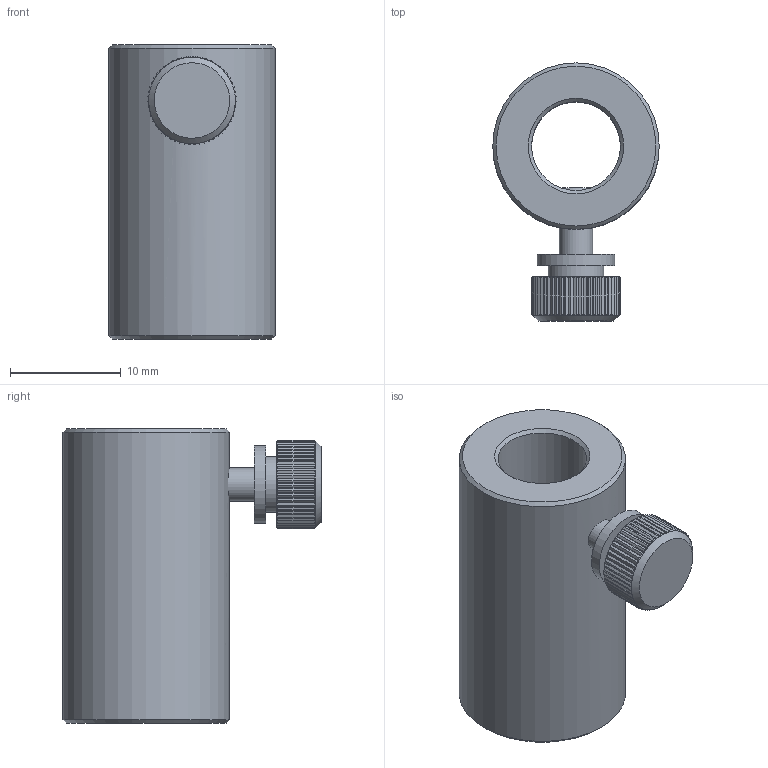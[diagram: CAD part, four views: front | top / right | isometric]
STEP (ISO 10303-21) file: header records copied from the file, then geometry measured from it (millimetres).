
FILE_DESCRIPTION(('STEP AP214'),'1');
FILE_NAME('BA-ADT.stp','2023-07-06T09:41:04',(' '),(' '),'Spatial InterOp 3D',' ',' ');
FILE_SCHEMA(('AUTOMOTIVE_DESIGN { 1 0 10303 214 1 1 1 1 }'));
Length unit declared in the file: metre
Products named in the file (2): BA-ADT; Component1
Assembly tree (1 placements, depth 2):
  BA-ADT
    Component1
Bounding box: 15 x 23.26 x 26.5 mm (x, y, z)
Volume: 3494.3 mm3; surface area: 2514.8 mm2
Topology: 2 solids, 2 shells, 406 faces, 750 edges, 352 vertices
Faces by surface type: plane 228, cylinder 172, cone 5, torus 1
Full cylindrical faces by diameter (mm): 3 x2, 5 x1, 7 x1, 8 x1, 9.6 x1, 15 x1
Entity records: 12864 total; most frequent: DIRECTION 1897, CARTESIAN_POINT 1561, ORIENTED_EDGE 1470, AXIS2_PLACEMENT_3D 756, EDGE_CURVE 735, EDGE_LOOP 427, FACE_OUTER_BOUND 414, STYLED_ITEM 408
